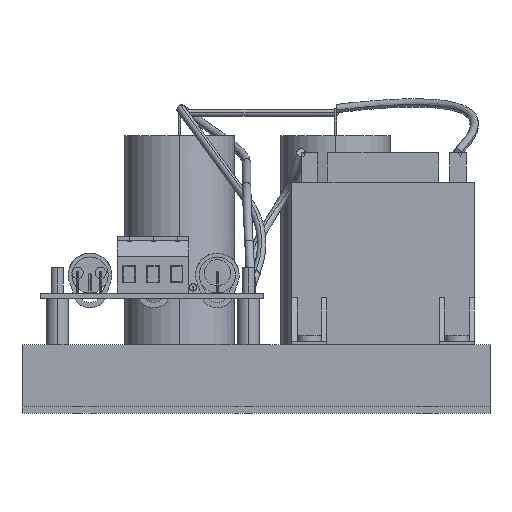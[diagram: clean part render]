
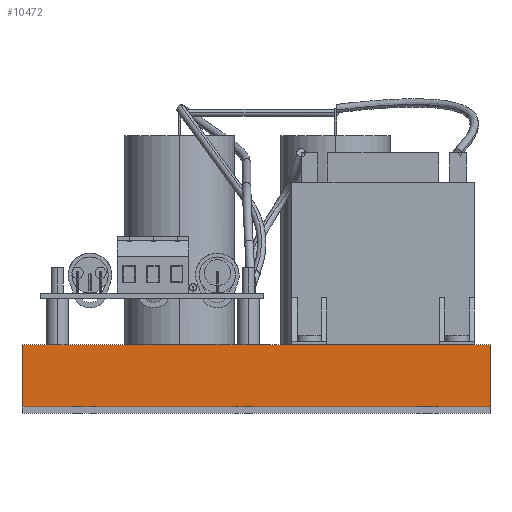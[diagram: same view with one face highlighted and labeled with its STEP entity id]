
A CAD part, front view. The second image highlights one B-rep face of the part: STEP entity #10472.
In plain terms, the highlighted planar face has unit normal (0, -1, 0).
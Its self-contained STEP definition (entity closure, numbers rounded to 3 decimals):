
#22=DIRECTION('',(0.,0.,-1.));
#23=VECTOR('',#22,20.);
#24=CARTESIAN_POINT('',(0.,18.,22.));
#25=LINE('',#24,#23);
#344=DIRECTION('',(0.,0.,-1.));
#345=VECTOR('',#344,20.);
#346=CARTESIAN_POINT('',(150.,18.,22.));
#347=LINE('',#346,#345);
#348=DIRECTION('',(-1.,0.,0.));
#349=VECTOR('',#348,150.);
#350=CARTESIAN_POINT('',(150.,18.,2.));
#351=LINE('',#350,#349);
#356=DIRECTION('',(-1.,0.,0.));
#357=VECTOR('',#356,150.);
#358=CARTESIAN_POINT('',(150.,18.,22.));
#359=LINE('',#358,#357);
#7990=CARTESIAN_POINT('',(0.,18.,22.));
#7991=VERTEX_POINT('',#7990);
#7992=CARTESIAN_POINT('',(0.,18.,2.));
#7993=VERTEX_POINT('',#7992);
#8150=CARTESIAN_POINT('',(150.,18.,2.));
#8151=VERTEX_POINT('',#8150);
#8160=CARTESIAN_POINT('',(150.,18.,22.));
#8161=VERTEX_POINT('',#8160);
#10459=CARTESIAN_POINT('',(0.,18.,2.));
#10460=DIRECTION('',(0.,-1.,0.));
#10461=DIRECTION('',(0.,0.,1.));
#10462=AXIS2_PLACEMENT_3D('',#10459,#10460,#10461);
#10463=PLANE('',#10462);
#10464=ORIENTED_EDGE('',*,*,#10165,.F.);
#10466=ORIENTED_EDGE('',*,*,#10465,.F.);
#10468=ORIENTED_EDGE('',*,*,#10467,.T.);
#10469=ORIENTED_EDGE('',*,*,#10439,.T.);
#10470=EDGE_LOOP('',(#10464,#10466,#10468,#10469));
#10471=FACE_OUTER_BOUND('',#10470,.F.);
#10165=EDGE_CURVE('',#7991,#7993,#25,.T.);
#10439=EDGE_CURVE('',#8151,#7993,#351,.T.);
#10465=EDGE_CURVE('',#8161,#7991,#359,.T.);
#10467=EDGE_CURVE('',#8161,#8151,#347,.T.);
#10472=ADVANCED_FACE('',(#10471),#10463,.T.);
